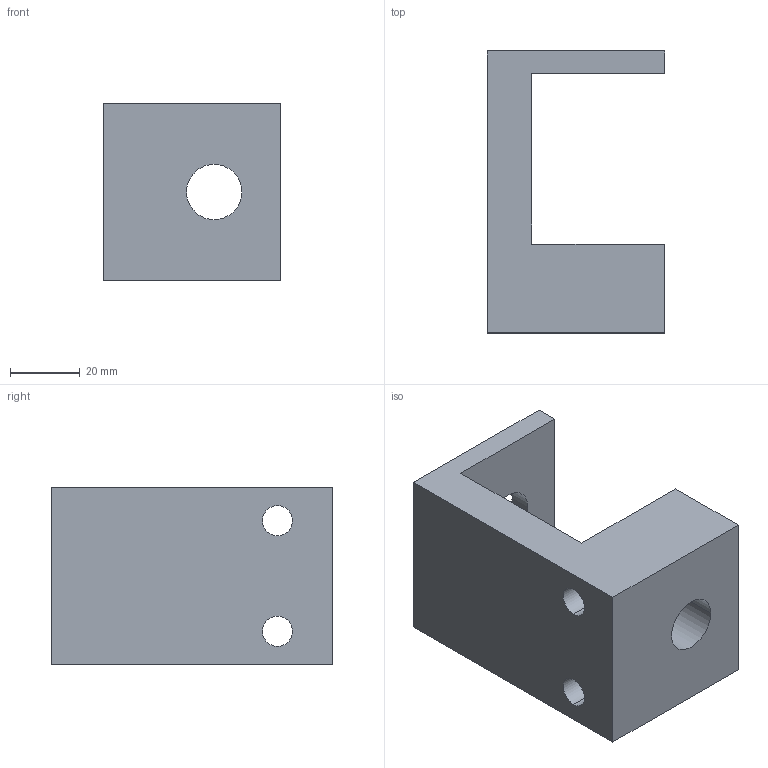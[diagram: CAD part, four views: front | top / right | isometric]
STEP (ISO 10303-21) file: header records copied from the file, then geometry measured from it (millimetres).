
FILE_DESCRIPTION (( 'STEP AP203' ), '1' );
FILE_NAME ('269-18-401.STEP', '2020-03-02T20:25:32', ( '' ), ( '' ), 'SwSTEP 2.0', 'SolidWorks 2017', '' );
FILE_SCHEMA (( 'CONFIG_CONTROL_DESIGN' ));
Length unit declared in the file: inch
Products named in the file (1): 269-18-401
Bounding box: 50.8 x 80.77 x 50.8 mm (x, y, z)
Volume: 96841.1 mm3; surface area: 25734 mm2
Topology: 1 solids, 1 shells, 24 faces, 60 edges, 40 vertices
Faces by surface type: cylinder 12, plane 12
Entity records: 823 total; most frequent: DIRECTION 134, CARTESIAN_POINT 125, ORIENTED_EDGE 120, EDGE_CURVE 60, AXIS2_PLACEMENT_3D 49, VERTEX_POINT 40, LINE 36, VECTOR 36
